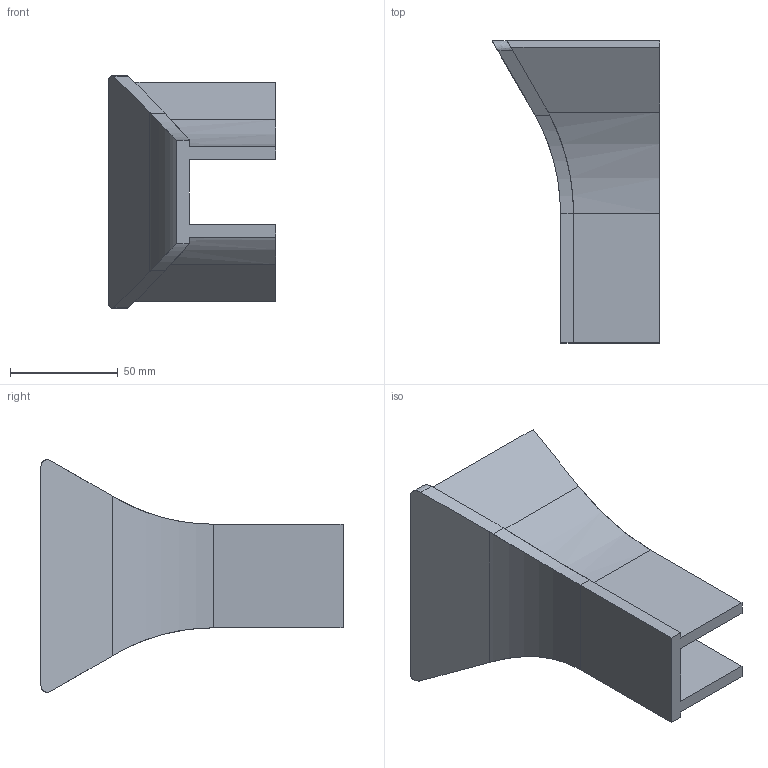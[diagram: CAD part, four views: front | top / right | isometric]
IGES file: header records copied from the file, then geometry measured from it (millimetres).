
Global section: file name: E:\UnigraphicsGraphicData\MISUMI_PRESS-PARTS\IGES\3d_cilg-60-40-30_00256_r00.igs; native system: NX V5.0; preprocessor: UGS NX IGES V5.0; author: MISUMI; date: 20110105.160245; units: millimetre
Bounding box: 77.65 x 140 x 107.89 mm (x, y, z)
Surface area: 49570.1 mm2 (no closed solid volume)
Topology: 0 solids, 0 shells, 38 faces, 214 edges, 214 vertices
Faces by surface type: bspline 38
